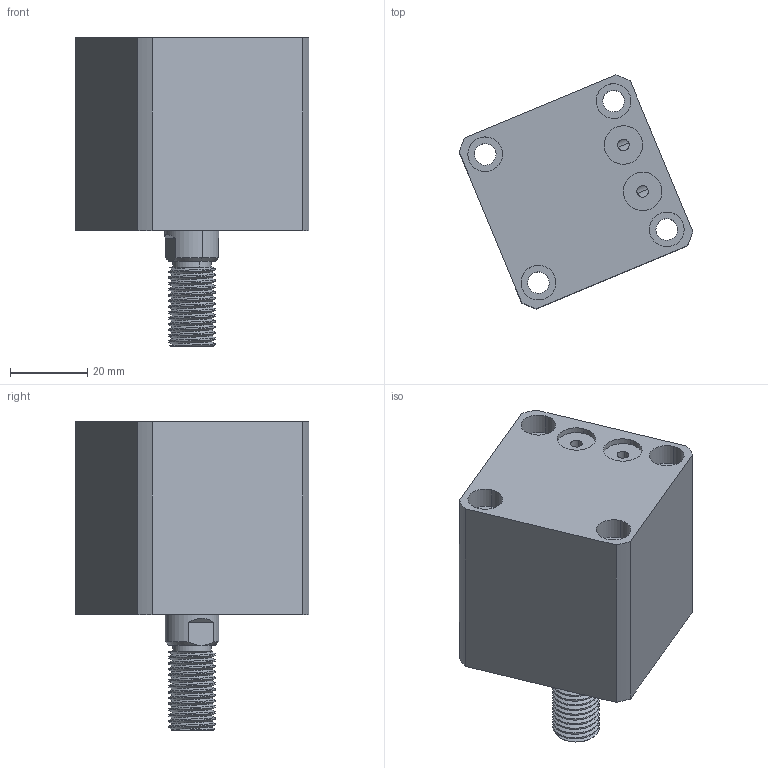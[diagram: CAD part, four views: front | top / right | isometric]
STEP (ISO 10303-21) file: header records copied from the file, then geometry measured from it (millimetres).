
FILE_DESCRIPTION (( 'STEP AP214' ), '1' );
FILE_NAME ('chtb-sdmb25x5w_asm.STEP', '2018-05-24T02:11:53', ( 'Windows' ), ( 'Microsoft' ), 'SwSTEP 2.0', 'SolidWorks 2015', '' );
FILE_SCHEMA (( 'AUTOMOTIVE_DESIGN' ));
Length unit declared in the file: millimetre
Products named in the file (4): CHTB-SDMB25X5WHSG; CHTB-SDMB25X5NBT; CHTB-25QG; chtb-sdmb25x5w_asm
Assembly tree (3 placements, depth 2):
  chtb-sdmb25x5w_asm
    CHTB-25QG
    CHTB-SDMB25X5NBT
    CHTB-SDMB25X5WHSG
Bounding box: 60.55 x 60.55 x 80 mm (x, y, z)
Volume: 107813.5 mm3; surface area: 32340.8 mm2
Topology: 3 solids, 3 shells, 176 faces, 476 edges, 323 vertices
Faces by surface type: cylinder 118, plane 37, bspline 12, cone 9
Entity records: 10721 total; most frequent: CARTESIAN_POINT 6406, ORIENTED_EDGE 944, DIRECTION 765, EDGE_CURVE 472, VERTEX_POINT 323, AXIS2_PLACEMENT_3D 310, EDGE_LOOP 215, FACE_OUTER_BOUND 176
